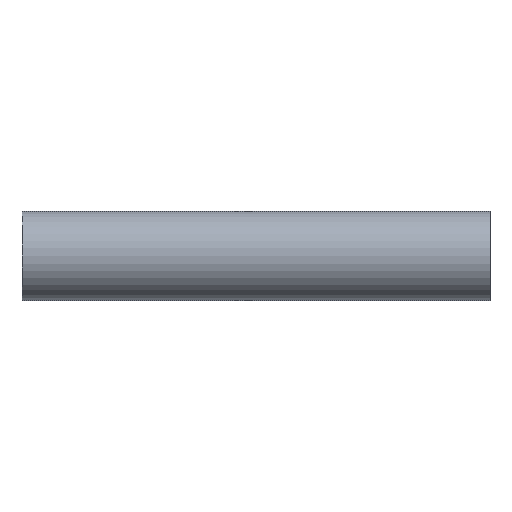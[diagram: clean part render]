
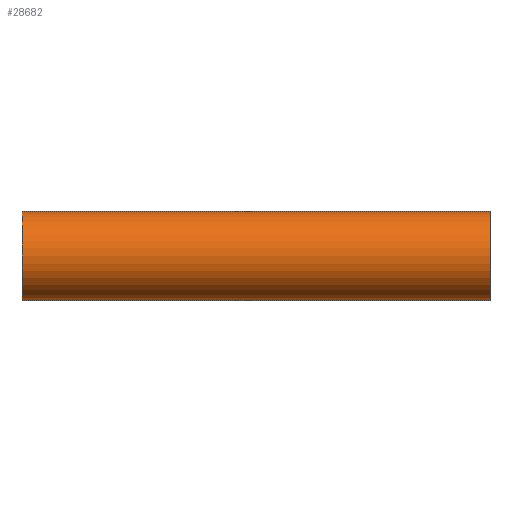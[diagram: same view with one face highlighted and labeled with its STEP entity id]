
A CAD part, left-side view. The second image highlights one B-rep face of the part: STEP entity #28682.
In plain terms, the highlighted cylindrical face has radius 15.975 mm (diameter 31.95 mm), a partial arc.
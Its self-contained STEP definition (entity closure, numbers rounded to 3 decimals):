
#284 = ORIENTED_EDGE ( 'NONE', *, *, #44614, .F. ) ;
#1440 = VERTEX_POINT ( 'NONE', #42766 ) ;
#2520 = AXIS2_PLACEMENT_3D ( 'NONE', #23255, #23580, #19249 ) ;
#3878 = LINE ( 'NONE', #30942, #19364 ) ;
#4445 = CARTESIAN_POINT ( 'NONE',  ( 0., 0., 0. ) ) ;
#4549 = EDGE_LOOP ( 'NONE', ( #14803, #284, #28028, #32193 ) ) ;
#5119 = VECTOR ( 'NONE', #32557, 1000. ) ;
#5594 = CIRCLE ( 'NONE', #2520, 15.975 ) ;
#5722 = DIRECTION ( 'NONE',  ( 0., -1., 0. ) ) ;
#8619 = DIRECTION ( 'NONE',  ( 0., 0., 1. ) ) ;
#8783 = DIRECTION ( 'NONE',  ( 0., 1., 0. ) ) ;
#9551 = CARTESIAN_POINT ( 'NONE',  ( 0., 168., 0. ) ) ;
#9829 = AXIS2_PLACEMENT_3D ( 'NONE', #4445, #8783, #8619 ) ;
#13894 = CYLINDRICAL_SURFACE ( 'NONE', #51071, 15.975 ) ;
#14803 = ORIENTED_EDGE ( 'NONE', *, *, #32020, .F. ) ;
#19249 = DIRECTION ( 'NONE',  ( 0., 0., 1. ) ) ;
#19364 = VECTOR ( 'NONE', #22747, 1000. ) ;
#20097 = FACE_OUTER_BOUND ( 'NONE', #4549, .T. ) ;
#22747 = DIRECTION ( 'NONE',  ( 0., -1., 0. ) ) ;
#23255 = CARTESIAN_POINT ( 'NONE',  ( 0., 168., 0. ) ) ;
#23580 = DIRECTION ( 'NONE',  ( 0., 1., 0. ) ) ;
#24337 = CIRCLE ( 'NONE', #9829, 15.975 ) ;
#24782 = EDGE_CURVE ( 'NONE', #1440, #45379, #24337, .T. ) ;
#25141 = CARTESIAN_POINT ( 'NONE',  ( 0., 168., 15.975 ) ) ;
#26103 = LINE ( 'NONE', #29275, #5119 ) ;
#27184 = CARTESIAN_POINT ( 'NONE',  ( 0., 168., -15.975 ) ) ;
#28028 = ORIENTED_EDGE ( 'NONE', *, *, #31807, .T. ) ;
#28682 = ADVANCED_FACE ( 'NONE', ( #20097 ), #13894, .T. ) ;
#29275 = CARTESIAN_POINT ( 'NONE',  ( 0., 168., -15.975 ) ) ;
#30942 = CARTESIAN_POINT ( 'NONE',  ( 0., 168., 15.975 ) ) ;
#31774 = VERTEX_POINT ( 'NONE', #25141 ) ;
#31807 = EDGE_CURVE ( 'NONE', #48599, #1440, #26103, .T. ) ;
#32020 = EDGE_CURVE ( 'NONE', #31774, #45379, #3878, .T. ) ;
#32193 = ORIENTED_EDGE ( 'NONE', *, *, #24782, .T. ) ;
#32557 = DIRECTION ( 'NONE',  ( 0., -1., 0. ) ) ;
#32597 = CARTESIAN_POINT ( 'NONE',  ( 0., 0., 15.975 ) ) ;
#36831 = DIRECTION ( 'NONE',  ( 0., 0., -1. ) ) ;
#42766 = CARTESIAN_POINT ( 'NONE',  ( 0., 0., -15.975 ) ) ;
#44614 = EDGE_CURVE ( 'NONE', #48599, #31774, #5594, .T. ) ;
#45379 = VERTEX_POINT ( 'NONE', #32597 ) ;
#48599 = VERTEX_POINT ( 'NONE', #27184 ) ;
#51071 = AXIS2_PLACEMENT_3D ( 'NONE', #9551, #5722, #36831 ) ;
